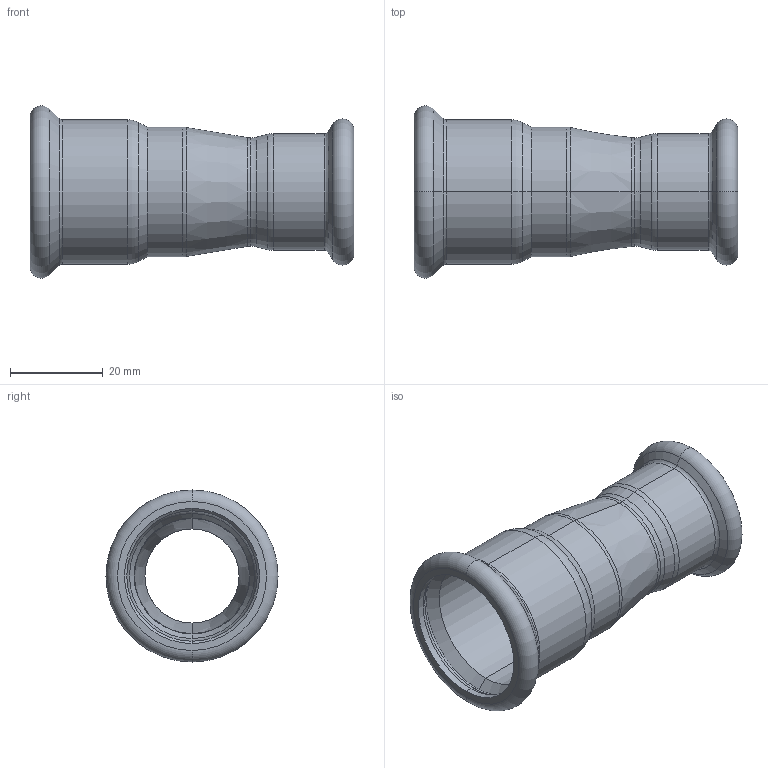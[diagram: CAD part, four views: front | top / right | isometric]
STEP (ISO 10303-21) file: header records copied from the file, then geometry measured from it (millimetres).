
FILE_DESCRIPTION (( 'STEP AP214' ), '1' );
FILE_NAME ('R282200.STEP', '2025-08-17T15:14:00', ( '' ), ( '' ), 'SwSTEP 2.0', 'SolidWorks 2020', '' );
FILE_SCHEMA (( 'AUTOMOTIVE_DESIGN' ));
Length unit declared in the file: millimetre
Products named in the file (1): R282200
Bounding box: 70 x 37.19 x 37.19 mm (x, y, z)
Volume: 10405.7 mm3; surface area: 13530.9 mm2
Topology: 1 solids, 1 shells, 76 faces, 152 edges, 80 vertices
Faces by surface type: torus 36, cone 20, cylinder 16, plane 4
Entity records: 2746 total; most frequent: DIRECTION 422, CARTESIAN_POINT 309, ORIENTED_EDGE 304, AXIS2_PLACEMENT_3D 193, EDGE_CURVE 152, CIRCLE 116, EDGE_LOOP 80, VERTEX_POINT 80
